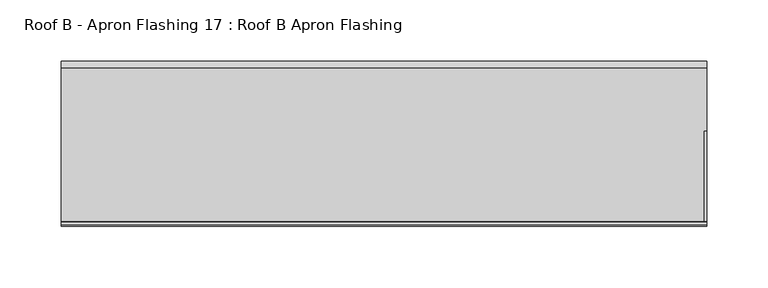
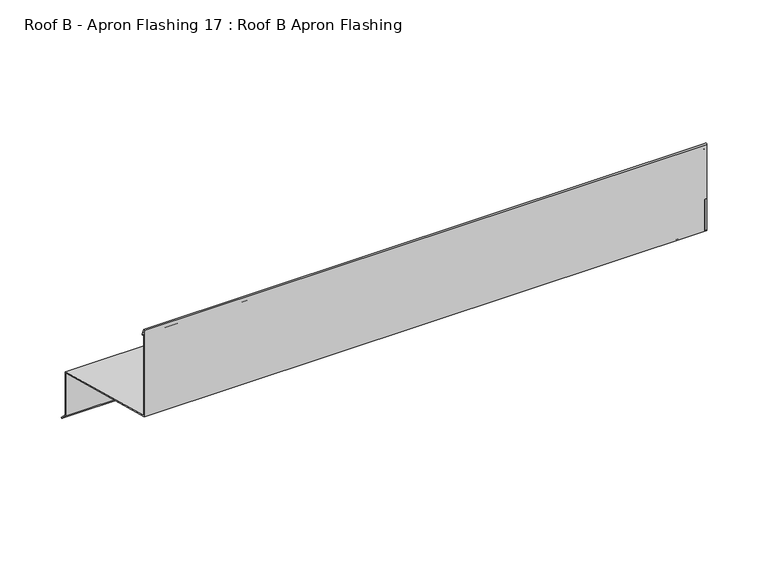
"""IFC4 building model written with IfcOpenShell, lengths in millimetres: proxy geometry, Roof B - Apron Flashing 17 : Roof B Apron Flashing."""

import ifcopenshell
import ifcopenshell.guid

model = None  # the IFC model being written
_history = None  # IfcOwnerHistory: only IFC2X3 demands one
_inside = {}  # id of a spatial element -> (the spatial element, [elements in it])
_under = {}  # id of a project, library or spatial element -> (it, [spatial elements below it])
_declared = {}  # id of a project -> (the project, [libraries it declares])
_typed = {}  # id of a type object -> (the type object, [elements of that type])
_made_of = {}  # id of a material, layer set ... -> (it, [elements and type objects made of it])


def new_model(schema):
    """Start an empty IFC model of exactly this schema.

    Asked for "IFC4X3", IfcOpenShell would pick the latest addendum, in which some entities
    have other attributes; the version numbers below select the first issue.
    IFC2X3 requires an IfcOwnerHistory on every rooted entity: one is made here for all.
    """
    global model, _history
    if schema == "IFC4X3":
        model = ifcopenshell.file(schema_version=(4, 3, 0, 0))
    else:
        model = ifcopenshell.file(schema=schema)
    _inside.clear()
    _under.clear()
    _declared.clear()
    _typed.clear()
    _made_of.clear()
    _history = None
    if model.schema == "IFC2X3":
        org = make("IfcOrganization", Name="unknown")
        user = make(
            "IfcPersonAndOrganization",
            ThePerson=make("IfcPerson", FamilyName="unknown"),
            TheOrganization=org,
        )
        app = make(
            "IfcApplication",
            ApplicationDeveloper=org,
            Version="unknown",
            ApplicationFullName="unknown",
            ApplicationIdentifier="unknown",
        )
        _history = make(
            "IfcOwnerHistory",
            OwningUser=user,
            OwningApplication=app,
            ChangeAction="ADDED",
            CreationDate=0,
        )
    return model


def make(cls, **values):
    """One entity of the class cls with the attributes given. An attribute that is None is left unset."""
    return model.create_entity(
        cls, **{name: value for name, value in values.items() if value is not None}
    )


def rooted(cls, **values):
    """An entity with a GlobalId (a new one), such as an element, a storey or a relation."""
    return make(cls, GlobalId=ifcopenshell.guid.new(), OwnerHistory=_history, **values)


def si_unit(unit_type, name, prefix=None):
    """IfcSIUnit, for example si_unit("LENGTHUNIT", "METRE", prefix="MILLI")."""
    return make("IfcSIUnit", UnitType=unit_type, Prefix=prefix, Name=name)


def assignment(units):
    """IfcUnitAssignment: the units of a project."""
    return None if units is None else make("IfcUnitAssignment", Units=units)


def point(xyz):
    """IfcCartesianPoint."""
    return None if xyz is None else make("IfcCartesianPoint", Coordinates=xyz)


def direction(xyz):
    """IfcDirection."""
    return None if xyz is None else make("IfcDirection", DirectionRatios=xyz)


def frame(location, z_axis=None, x_axis=None):
    """IfcAxis2Placement3D, a coordinate frame: its origin and axes. An axis left out is left unset."""
    return make(
        "IfcAxis2Placement3D",
        Location=point(location),
        Axis=direction(z_axis),
        RefDirection=direction(x_axis),
    )


def frame_2d(location, x_axis=None):
    """IfcAxis2Placement2D, a coordinate frame in the plane: its origin and x axis."""
    return make(
        "IfcAxis2Placement2D", Location=point(location), RefDirection=direction(x_axis)
    )


def origin():
    """The frame at (0, 0, 0) with its axes left unset."""
    return frame((0.0, 0.0, 0.0))


def place(relative_to, where):
    """IfcLocalPlacement: puts the frame where relative to a parent placement (None: the world)."""
    return make(
        "IfcLocalPlacement", PlacementRelTo=relative_to, RelativePlacement=where
    )


def context(
    kind, dimensions, precision=None, world=None, true_north=None, identifier=None
):
    """IfcGeometricRepresentationContext, for example the 3D "Model" context."""
    return make(
        "IfcGeometricRepresentationContext",
        ContextIdentifier=identifier,
        ContextType=kind,
        CoordinateSpaceDimension=dimensions,
        Precision=precision,
        WorldCoordinateSystem=world,
        TrueNorth=true_north,
    )


def project(units=None, contexts=None):
    """IfcProject with its units and contexts."""
    return rooted(
        "IfcProject",
        Name="project",
        RepresentationContexts=contexts,
        UnitsInContext=assignment(units),
    )


def spatial(cls, under=None, at=None, **own):
    """A site, building, storey or space (cls), placed at a placement, below another one or the project."""
    s = rooted(cls, ObjectPlacement=at, **own)
    if under is not None:
        _under.setdefault(under.id(), (under, []))[1].append(s)
    return s


def polyline(points):
    """IfcPolyline through the points."""
    return make("IfcPolyline", Points=[point(p) for p in points])


def circle_curve(where, radius):
    """IfcCircle in the frame where."""
    return make("IfcCircle", Position=where, Radius=radius)


def trimmed(basis, trim1, trim2, sense, master):
    """IfcTrimmedCurve: the piece of a basis curve between two trims."""
    return make(
        "IfcTrimmedCurve",
        BasisCurve=basis,
        Trim1=trim1,
        Trim2=trim2,
        SenseAgreement=sense,
        MasterRepresentation=master,
    )


def segment(curve, same_sense, transition):
    """IfcCompositeCurveSegment."""
    return make(
        "IfcCompositeCurveSegment",
        Transition=transition,
        SameSense=same_sense,
        ParentCurve=curve,
    )


def composite_curve(segments, self_intersect=None):
    """IfcCompositeCurve: segments joined end to end."""
    return make("IfcCompositeCurve", Segments=segments, SelfIntersect=self_intersect)


def outline(outer, holes=None, kind="AREA"):
    """IfcArbitraryClosedProfileDef: a profile drawn as a closed curve; with holes, ...WithVoids."""
    if holes is None:
        return make("IfcArbitraryClosedProfileDef", ProfileType=kind, OuterCurve=outer)
    return make(
        "IfcArbitraryProfileDefWithVoids",
        ProfileType=kind,
        OuterCurve=outer,
        InnerCurves=holes,
    )


def extrude(swept, where, along, depth):
    """IfcExtrudedAreaSolid: the profile swept, set in the frame where, extruded along a direction by depth."""
    return make(
        "IfcExtrudedAreaSolid",
        SweptArea=swept,
        Position=where,
        ExtrudedDirection=direction(along),
        Depth=depth,
    )


def shape(context_of_items, identifier, shape_type, items):
    """IfcShapeRepresentation: the items that make up one representation, for example the "Body"."""
    return make(
        "IfcShapeRepresentation",
        ContextOfItems=context_of_items,
        RepresentationIdentifier=identifier,
        RepresentationType=shape_type,
        Items=items,
    )


def source(mapping_origin, context_of_items, identifier, shape_type, items):
    """IfcRepresentationMap: a shape defined once, which mapped items show again and again."""
    return make(
        "IfcRepresentationMap",
        MappingOrigin=mapping_origin,
        MappedRepresentation=shape(context_of_items, identifier, shape_type, items),
    )


def transform(
    local_origin,
    x_axis=None,
    y_axis=None,
    z_axis=None,
    scale=None,
    scale2=None,
    scale3=None,
    uniform=True,
):
    """IfcCartesianTransformationOperator3D, or its non-uniform kind. x_axis, y_axis, z_axis: its Axis1, 2, 3."""
    if uniform:
        return make(
            "IfcCartesianTransformationOperator3D",
            Axis1=direction(x_axis),
            Axis2=direction(y_axis),
            LocalOrigin=point(local_origin),
            Scale=scale,
            Axis3=direction(z_axis),
        )
    return make(
        "IfcCartesianTransformationOperator3DnonUniform",
        Axis1=direction(x_axis),
        Axis2=direction(y_axis),
        LocalOrigin=point(local_origin),
        Scale=scale,
        Axis3=direction(z_axis),
        Scale2=scale2,
        Scale3=scale3,
    )


def mapped(mapping_source, mapping_target):
    """IfcMappedItem: shows the shape of a source again, moved by a transform."""
    return make(
        "IfcMappedItem", MappingSource=mapping_source, MappingTarget=mapping_target
    )


def made_of(thing, what):
    """Note that an element or type object is made of a material, layer set ...; save() writes the relation."""
    if what is not None:
        _made_of.setdefault(what.id(), (what, []))[1].append(thing)
    return thing


def element(
    cls,
    number,
    at=None,
    inside=None,
    cuts=None,
    type_object=None,
    material=None,
    context=None,
    identifier="Body",
    shape_type=None,
    held_by="IfcProductDefinitionShape",
    body=None,
    shapes=None,
    **own,
):
    """One element of the class cls, such as IfcWall. Its Tag is "e" and its number.

    at: its placement. inside: the storey or other place that contains it. cuts: it is an
    opening in that element (IfcRelVoidsElement). A single representation is given by context,
    identifier, shape_type and body (its items); several are given by shapes. held_by: the class
    of the entity that holds the representations. save() writes the other relations.
    """
    e = rooted(cls, Tag="e%d" % number, ObjectPlacement=at, **own)
    if body is not None:
        shapes = [shape(context, identifier, shape_type, body)]
    if shapes is not None:
        e.Representation = make(held_by, Representations=shapes)
    if inside is not None:
        _inside.setdefault(inside.id(), (inside, []))[1].append(e)
    if cuts is not None:
        rooted(
            "IfcRelVoidsElement", RelatingBuildingElement=cuts, RelatedOpeningElement=e
        )
    if type_object is not None:
        _typed.setdefault(type_object.id(), (type_object, []))[1].append(e)
    return made_of(e, material)


def aggregate(whole, parts):
    """IfcRelAggregates: a whole, such as a stair, and the parts it consists of."""
    return rooted("IfcRelAggregates", RelatingObject=whole, RelatedObjects=parts)


def save(model, path):
    """Write the relations noted so far, then the file.

    IfcRelAggregates (storeys below a building ...), IfcRelContainedInSpatialStructure (elements
    in a storey), IfcRelDefinesByType, IfcRelAssociatesMaterial and IfcRelDeclares: one each for
    every whole, place, type object, material and project.
    """
    for whole, parts in _under.values():
        aggregate(whole, parts)
    for where, things in _inside.values():
        rooted(
            "IfcRelContainedInSpatialStructure",
            RelatedElements=things,
            RelatingStructure=where,
        )
    for kind, things in _typed.values():
        rooted("IfcRelDefinesByType", RelatedObjects=things, RelatingType=kind)
    for what, things in _made_of.values():
        rooted("IfcRelAssociatesMaterial", RelatedObjects=things, RelatingMaterial=what)
    for by, libraries in _declared.values():
        rooted("IfcRelDeclares", RelatingContext=by, RelatedDefinitions=libraries)
    model.write(path)


def roof_b_apron_flashing_17_roof_b_apron_flashing_6cb279cc(model_context):
    return source(origin(), model_context, "Body", "SweptSolid", [
        extrude(outline(polyline([(-26524.3073445, -388.7215885), (-26569.5553264, -376.5974283), (-26569.5553264, -333.9762204), (-26524.3073445, -346.1003806), (-26524.3073445, -388.7215885)])), frame((16349.7575627, 0.0, 0.0), z_axis=(1.0, 0.0, 0.0), x_axis=(0.0, 1.0, 0.0)), (0.0, 0.0, 1.0), 2.0),
        extrude(outline(polyline([(-26574.5553264, -331.6011982), (-26652.6803264, -310.6676676), (-26652.6803264, -279.7934577), (-26574.5553264, -300.7269884), (-26574.5553264, -331.6011982)])), frame((16349.7575627, 0.0, 0.0), z_axis=(1.0, 0.0, 0.0), x_axis=(0.0, 1.0, 0.0)), (0.0, 0.0, 1.0), 2.0),
        extrude(outline(composite_curve([segment(polyline([(-26523.3073445, -345.3330536), (-26523.3073445, -388.338713), (-26517.2767092, -394.3693483), (-26517.983816, -395.0764551), (-26524.3073445, -388.7529266), (-26524.3073445, -346.1003806), (-26652.6803264, -311.7029438), (-26652.6803264, -225.8538686)]), True, "CONTINUOUS"), segment(trimmed(circle_curve(frame_2d((-26652.0012822, -225.8538686)), 0.6790442), [point((-26652.6803264, -225.8538686))], [point((-26651.3716834, -225.5994942))], False, "CARTESIAN"), True, "CONTINUOUS"), segment(polyline([(-26651.3716834, -225.5994942), (-26648.9572286, -231.5754797)]), True, "CONTINUOUS"), segment(trimmed(circle_curve(frame_2d((-26649.4208205, -231.762783)), 0.5), [point((-26648.9572286, -231.5754797))], [point((-26649.8844124, -231.9500863))], False, "CARTESIAN"), True, "CONTINUOUS"), segment(polyline([(-26649.8844124, -231.9500863), (-26651.6803264, -227.5050431), (-26651.6803264, -310.9356168), (-26523.3073445, -345.3330536)]), True, "CONTINUOUS")], self_intersect=False)), frame((15822.8825627, 0.0, 0.0), z_axis=(1.0, 0.0, 0.0), x_axis=(0.0, 1.0, 0.0)), (0.0, 0.0, 1.0), 528.875),
    ])


if __name__ == "__main__":
    model = new_model("IFC4")
    model_context = context("Model", 3, world=origin())
    ifc_project = project(units=[si_unit("LENGTHUNIT", "METRE", prefix="MILLI")], contexts=[model_context])
    site = spatial("IfcSite", under=ifc_project)
    building = spatial("IfcBuilding", under=site)
    placement = place(None, origin())
    roof_b_apron_flashing_17_roof_b_apron_flashing_shape = roof_b_apron_flashing_17_roof_b_apron_flashing_6cb279cc(model_context)
    element("IfcBuildingElementProxy", 1, Name="Roof B - Apron Flashing 17 : Roof B Apron Flashing", ObjectType="Roof B - Apron Flashing 17 : Roof B Apron Flashing", at=placement, inside=building, context=model_context, shape_type="MappedRepresentation", body=[
        mapped(roof_b_apron_flashing_17_roof_b_apron_flashing_shape, transform((0.0, 0.0, 0.0), x_axis=(1.0, 0.0, 0.0), y_axis=(0.0, 1.0, 0.0), z_axis=(0.0, 0.0, 1.0))),
    ])
    save(model, "model.ifc")
